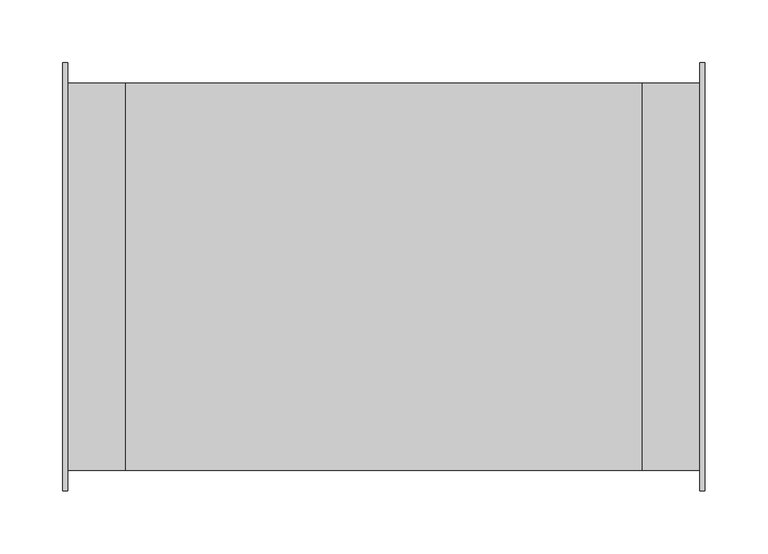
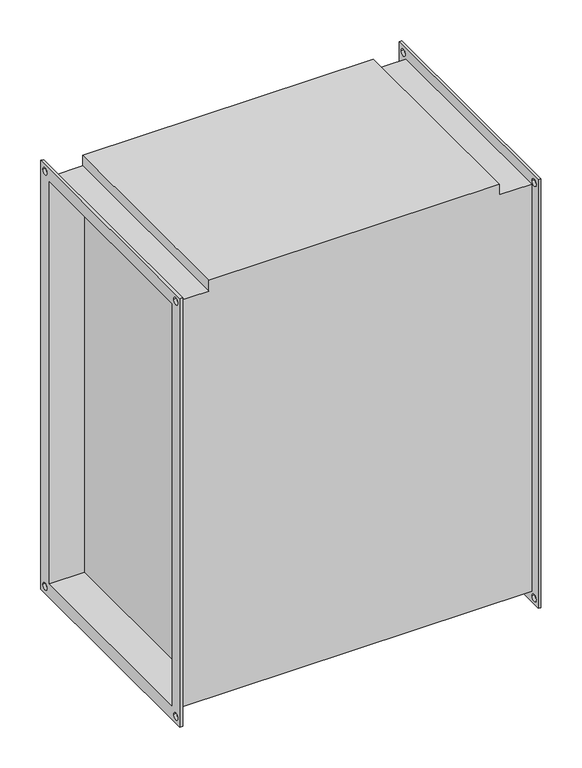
"""IFC4 building model written with IfcOpenShell, lengths in millimetres: proxy geometry, СВ_ВоздухонагревательЭлектрический_КанальныйПрямоугольный_200-1000_SPH-E : SPH-E-600x300/22,5."""

from ifc_helpers import new_model, si_unit, frame, origin, place, context, project, spatial, polyline, circle_curve, source, transform, mapped, element, save
from ifc_brep_helpers import plane_surface, revolved_surface, advanced_brep


def mechanical_equipment_0f29fb4d(model_context):
    return source(origin(), model_context, "Body", "AdvancedBrep", [
        advanced_brep(
        [(-205.0, -154.0, 304.0), (-251.0, -154.0, 304.0), (-251.0, -154.0, -304.0), (251.0, -154.0, -304.0), (251.0, -154.0, 304.0), (205.0, -154.0, 304.0), (205.0, -154.0, 320.0), (-205.0, -154.0, 320.0), (-251.0, 154.0, -304.0), (251.0, 154.0, -304.0), (-251.0, 154.0, 304.0), (-205.0, 154.0, 304.0), (-205.0, 154.0, 320.0), (205.0, 154.0, 320.0), (205.0, 154.0, 304.0), (251.0, 154.0, 304.0), (205.0, 150.0, -300.0), (205.0, 150.0, 300.0), (205.0, -150.0, 300.0), (205.0, -150.0, -300.0), (-205.0, -150.0, 300.0), (-205.0, 150.0, 300.0), (-205.0, 150.0, -300.0), (-205.0, -150.0, -300.0), (-255.0, -170.0, 320.0), (-255.0, 170.0, 320.0), (-255.0, 170.0, -320.0), (-255.0, -170.0, -320.0), (-255.0, -150.0, 300.0), (-255.0, -150.0, -300.0), (-255.0, 150.0, -300.0), (-255.0, 150.0, 300.0), (-255.0, 155.0, 310.0), (-255.0, 165.0, 310.0), (-255.0, -165.0, 310.0), (-255.0, -155.0, 310.0), (-255.0, -165.0, -310.0), (-255.0, -155.0, -310.0), (-255.0, 155.0, -310.0), (-255.0, 165.0, -310.0), (-251.0, -170.0, 320.0), (-251.0, -170.0, -320.0), (-251.0, 170.0, -320.0), (-251.0, 170.0, 320.0), (-251.0, 165.0, 310.0), (-251.0, 155.0, 310.0), (-251.0, -155.0, 310.0), (-251.0, -165.0, 310.0), (-251.0, -155.0, -310.0), (-251.0, -165.0, -310.0), (-251.0, 165.0, -310.0), (-251.0, 155.0, -310.0), (251.0, 170.0, 320.0), (251.0, 170.0, -320.0), (251.0, -170.0, -320.0), (251.0, -170.0, 320.0), (251.0, 155.0, 310.0), (251.0, 165.0, 310.0), (251.0, -165.0, 310.0), (251.0, -155.0, 310.0), (251.0, -165.0, -310.0), (251.0, -155.0, -310.0), (251.0, 155.0, -310.0), (251.0, 165.0, -310.0), (255.0, 170.0, 320.0), (255.0, -170.0, 320.0), (255.0, -170.0, -320.0), (255.0, 170.0, -320.0), (255.0, 150.0, 300.0), (255.0, 150.0, -300.0), (255.0, -150.0, -300.0), (255.0, -150.0, 300.0), (255.0, 165.0, 310.0), (255.0, 155.0, 310.0), (255.0, -155.0, 310.0), (255.0, -165.0, 310.0), (255.0, -155.0, -310.0), (255.0, -165.0, -310.0), (255.0, 165.0, -310.0), (255.0, 155.0, -310.0)],
        [
            (0, 1),
            (1, 2),
            (2, 3),
            (3, 4),
            (4, 5),
            (5, 6),
            (6, 7),
            (7, 0),
            (2, 8),
            (8, 9),
            (9, 3),
            (10, 11),
            (11, 12),
            (12, 13),
            (13, 14),
            (14, 15),
            (15, 9),
            (8, 10),
            (0, 11),
            (10, 1),
            (13, 6),
            (5, 14),
            (16, 17),
            (17, 18),
            (18, 19),
            (19, 16),
            (7, 12),
            (20, 21),
            (21, 22),
            (22, 23),
            (23, 20),
            (4, 15),
            (24, 25),
            (25, 26),
            (26, 27),
            (27, 24),
            (28, 29),
            (29, 30),
            (30, 31),
            (31, 28),
            (32, 33, circle_curve(frame((-255.0, 160.0, 310.0), z_axis=(1.0, 0.0, 0.0), x_axis=(0.0, 1.0, 0.0)), 5.0)),
            (33, 32, circle_curve(frame((-255.0, 160.0, 310.0), z_axis=(1.0, 0.0, 0.0), x_axis=(0.0, 1.0, 0.0)), 5.0)),
            (34, 35, circle_curve(frame((-255.0, -160.0, 310.0), z_axis=(1.0, 0.0, 0.0), x_axis=(0.0, 1.0, 0.0)), 5.0)),
            (35, 34, circle_curve(frame((-255.0, -160.0, 310.0), z_axis=(1.0, 0.0, 0.0), x_axis=(0.0, 1.0, 0.0)), 5.0)),
            (36, 37, circle_curve(frame((-255.0, -160.0, -310.0), z_axis=(1.0, 0.0, 0.0), x_axis=(0.0, 1.0, 0.0)), 5.0)),
            (37, 36, circle_curve(frame((-255.0, -160.0, -310.0), z_axis=(1.0, 0.0, 0.0), x_axis=(0.0, 1.0, 0.0)), 5.0)),
            (38, 39, circle_curve(frame((-255.0, 160.0, -310.0), z_axis=(1.0, 0.0, 0.0), x_axis=(0.0, 1.0, 0.0)), 5.0)),
            (39, 38, circle_curve(frame((-255.0, 160.0, -310.0), z_axis=(1.0, 0.0, 0.0), x_axis=(0.0, 1.0, 0.0)), 5.0)),
            (40, 41),
            (41, 42),
            (42, 43),
            (43, 40),
            (44, 45, circle_curve(frame((-251.0, 160.0, 310.0), z_axis=(-1.0, 0.0, 0.0), x_axis=(0.0, 1.0, 0.0)), 5.0)),
            (45, 44, circle_curve(frame((-251.0, 160.0, 310.0), z_axis=(-1.0, 0.0, 0.0), x_axis=(0.0, 1.0, 0.0)), 5.0)),
            (46, 47, circle_curve(frame((-251.0, -160.0, 310.0), z_axis=(-1.0, 0.0, 0.0), x_axis=(0.0, 1.0, 0.0)), 5.0)),
            (47, 46, circle_curve(frame((-251.0, -160.0, 310.0), z_axis=(-1.0, 0.0, 0.0), x_axis=(0.0, 1.0, 0.0)), 5.0)),
            (48, 49, circle_curve(frame((-251.0, -160.0, -310.0), z_axis=(-1.0, 0.0, 0.0), x_axis=(0.0, 1.0, 0.0)), 5.0)),
            (49, 48, circle_curve(frame((-251.0, -160.0, -310.0), z_axis=(-1.0, 0.0, 0.0), x_axis=(0.0, 1.0, 0.0)), 5.0)),
            (50, 51, circle_curve(frame((-251.0, 160.0, -310.0), z_axis=(-1.0, 0.0, 0.0), x_axis=(0.0, 1.0, 0.0)), 5.0)),
            (51, 50, circle_curve(frame((-251.0, 160.0, -310.0), z_axis=(-1.0, 0.0, 0.0), x_axis=(0.0, 1.0, 0.0)), 5.0)),
            (27, 41),
            (40, 24),
            (26, 42),
            (25, 43),
            (52, 53),
            (53, 54),
            (54, 55),
            (55, 52),
            (56, 57, circle_curve(frame((251.0, 160.0, 310.0), z_axis=(1.0, 0.0, 0.0), x_axis=(0.0, 1.0, 0.0)), 5.0)),
            (57, 56, circle_curve(frame((251.0, 160.0, 310.0), z_axis=(1.0, 0.0, 0.0), x_axis=(0.0, 1.0, 0.0)), 5.0)),
            (58, 59, circle_curve(frame((251.0, -160.0, 310.0), z_axis=(1.0, 0.0, 0.0), x_axis=(0.0, 1.0, 0.0)), 5.0)),
            (59, 58, circle_curve(frame((251.0, -160.0, 310.0), z_axis=(1.0, 0.0, 0.0), x_axis=(0.0, 1.0, 0.0)), 5.0)),
            (60, 61, circle_curve(frame((251.0, -160.0, -310.0), z_axis=(1.0, 0.0, 0.0), x_axis=(0.0, 1.0, 0.0)), 5.0)),
            (61, 60, circle_curve(frame((251.0, -160.0, -310.0), z_axis=(1.0, 0.0, 0.0), x_axis=(0.0, 1.0, 0.0)), 5.0)),
            (62, 63, circle_curve(frame((251.0, 160.0, -310.0), z_axis=(1.0, 0.0, 0.0), x_axis=(0.0, 1.0, 0.0)), 5.0)),
            (63, 62, circle_curve(frame((251.0, 160.0, -310.0), z_axis=(1.0, 0.0, 0.0), x_axis=(0.0, 1.0, 0.0)), 5.0)),
            (64, 65),
            (65, 66),
            (66, 67),
            (67, 64),
            (68, 69),
            (69, 70),
            (70, 71),
            (71, 68),
            (72, 73, circle_curve(frame((255.0, 160.0, 310.0), z_axis=(-1.0, 0.0, 0.0), x_axis=(0.0, 1.0, 0.0)), 5.0)),
            (73, 72, circle_curve(frame((255.0, 160.0, 310.0), z_axis=(-1.0, 0.0, 0.0), x_axis=(0.0, 1.0, 0.0)), 5.0)),
            (74, 75, circle_curve(frame((255.0, -160.0, 310.0), z_axis=(-1.0, 0.0, 0.0), x_axis=(0.0, 1.0, 0.0)), 5.0)),
            (75, 74, circle_curve(frame((255.0, -160.0, 310.0), z_axis=(-1.0, 0.0, 0.0), x_axis=(0.0, 1.0, 0.0)), 5.0)),
            (76, 77, circle_curve(frame((255.0, -160.0, -310.0), z_axis=(-1.0, 0.0, 0.0), x_axis=(0.0, 1.0, 0.0)), 5.0)),
            (77, 76, circle_curve(frame((255.0, -160.0, -310.0), z_axis=(-1.0, 0.0, 0.0), x_axis=(0.0, 1.0, 0.0)), 5.0)),
            (78, 79, circle_curve(frame((255.0, 160.0, -310.0), z_axis=(-1.0, 0.0, 0.0), x_axis=(0.0, 1.0, 0.0)), 5.0)),
            (79, 78, circle_curve(frame((255.0, 160.0, -310.0), z_axis=(-1.0, 0.0, 0.0), x_axis=(0.0, 1.0, 0.0)), 5.0)),
            (55, 65),
            (64, 52),
            (54, 66),
            (53, 67),
            (31, 21),
            (20, 28),
            (30, 22),
            (29, 23),
            (68, 17),
            (16, 69),
            (19, 70),
            (18, 71),
            (32, 45),
            (44, 33),
            (56, 73),
            (72, 57),
            (34, 47),
            (46, 35),
            (58, 75),
            (74, 59),
            (36, 49),
            (48, 37),
            (60, 77),
            (76, 61),
            (38, 51),
            (50, 39),
            (62, 79),
            (78, 63),
        ],
        [
            plane_surface(frame((-205.0, -154.0, 304.0), z_axis=(0.0, -1.0, 0.0), x_axis=(-1.0, 0.0, 0.0))),
            plane_surface(frame((-205.0, -154.0, -304.0), z_axis=(0.0, 0.0, -1.0), x_axis=(-1.0, 0.0, 0.0))),
            plane_surface(frame((-205.0, 154.0, -304.0), z_axis=(0.0, 1.0, 0.0), x_axis=(-1.0, 0.0, 0.0))),
            plane_surface(frame((-205.0, 154.0, 304.0), z_axis=(0.0, 0.0, 1.0), x_axis=(-1.0, 0.0, 0.0))),
            plane_surface(frame((205.0, -154.0, 320.0), z_axis=(1.0, 0.0, 0.0), x_axis=(0.0, 0.0, -1.0))),
            plane_surface(frame((-205.0, -154.0, 320.0), z_axis=(-1.0, 0.0, 0.0), x_axis=(0.0, 0.0, 1.0))),
            plane_surface(frame((205.0, 154.0, 320.0), z_axis=(0.0, 0.0, 1.0), x_axis=(-1.0, 0.0, 0.0))),
            plane_surface(frame((251.0, 154.0, 304.0), z_axis=(0.0, 0.0, 1.0), x_axis=(-1.0, 0.0, 0.0))),
            plane_surface(frame((-255.0, -170.0, 320.0), z_axis=(-1.0, 0.0, 0.0), x_axis=(0.0, 0.0, 1.0))),
            plane_surface(frame((-251.0, -170.0, 320.0), z_axis=(1.0, 0.0, 0.0), x_axis=(0.0, 0.0, -1.0))),
            plane_surface(frame((-251.0, -170.0, 320.0), z_axis=(0.0, -1.0, 0.0), x_axis=(-1.0, 0.0, 0.0))),
            plane_surface(frame((-251.0, -170.0, -320.0), z_axis=(0.0, 0.0, -1.0), x_axis=(-1.0, 0.0, 0.0))),
            plane_surface(frame((-251.0, 170.0, -320.0), z_axis=(0.0, 1.0, 0.0), x_axis=(-1.0, 0.0, 0.0))),
            plane_surface(frame((-251.0, 170.0, 320.0), z_axis=(0.0, 0.0, 1.0), x_axis=(-1.0, 0.0, 0.0))),
            plane_surface(frame((251.0, 150.0, -300.0), z_axis=(-1.0, 0.0, 0.0), x_axis=(0.0, 0.0, 1.0))),
            plane_surface(frame((255.0, 150.0, -300.0), z_axis=(1.0, 0.0, 0.0), x_axis=(0.0, 0.0, -1.0))),
            plane_surface(frame((255.0, 170.0, 320.0), z_axis=(0.0, 0.0, 1.0), x_axis=(-1.0, 0.0, 0.0))),
            plane_surface(frame((255.0, -170.0, 320.0), z_axis=(0.0, -1.0, 0.0), x_axis=(-1.0, 0.0, 0.0))),
            plane_surface(frame((255.0, -170.0, -320.0), z_axis=(0.0, 0.0, -1.0), x_axis=(-1.0, 0.0, 0.0))),
            plane_surface(frame((255.0, 170.0, -320.0), z_axis=(0.0, 1.0, 0.0), x_axis=(-1.0, 0.0, 0.0))),
            plane_surface(frame((-251.0, -150.0, 300.0), z_axis=(0.0, 0.0, -1.0), x_axis=(-1.0, 0.0, 0.0))),
            plane_surface(frame((-251.0, 150.0, 300.0), z_axis=(0.0, -1.0, 0.0), x_axis=(-1.0, 0.0, 0.0))),
            plane_surface(frame((-251.0, 150.0, -300.0), z_axis=(0.0, 0.0, 1.0), x_axis=(-1.0, 0.0, 0.0))),
            plane_surface(frame((-251.0, -150.0, -300.0), z_axis=(0.0, 1.0, 0.0), x_axis=(-1.0, 0.0, 0.0))),
            plane_surface(frame((255.0, 150.0, 300.0), z_axis=(0.0, -1.0, 0.0), x_axis=(-1.0, 0.0, 0.0))),
            plane_surface(frame((255.0, 150.0, -300.0), z_axis=(0.0, 0.0, 1.0), x_axis=(-1.0, 0.0, 0.0))),
            plane_surface(frame((255.0, -150.0, -300.0), z_axis=(0.0, 1.0, 0.0), x_axis=(-1.0, 0.0, 0.0))),
            plane_surface(frame((255.0, -150.0, 300.0), z_axis=(0.0, 0.0, -1.0), x_axis=(-1.0, 0.0, 0.0))),
            revolved_surface(polyline([(-251.0, 165.0, 310.0), (-255.0, 165.0, 310.0)]), (-255.0, 160.0, 310.0), (1.0, 0.0, 0.0)),
            revolved_surface(polyline([(255.0, 165.0, 310.0), (251.0, 165.0, 310.0)]), (-255.0, 160.0, 310.0), (1.0, 0.0, 0.0)),
            revolved_surface(polyline([(-251.0, -155.0, 310.0), (-255.0, -155.0, 310.0)]), (0.0, -160.0, 310.0), (1.0, 0.0, 0.0)),
            revolved_surface(polyline([(255.0, -155.0, 310.0), (251.0, -155.0, 310.0)]), (0.0, -160.0, 310.0), (1.0, 0.0, 0.0)),
            revolved_surface(polyline([(-251.0, -155.0, -310.0), (-255.0, -155.0, -310.0)]), (0.0, -160.0, -310.0), (1.0, 0.0, 0.0)),
            revolved_surface(polyline([(255.0, -155.0, -310.0), (251.0, -155.0, -310.0)]), (0.0, -160.0, -310.0), (1.0, 0.0, 0.0)),
            revolved_surface(polyline([(-251.0, 165.0, -310.0), (-255.0, 165.0, -310.0)]), (0.0, 160.0, -310.0), (1.0, 0.0, 0.0)),
            revolved_surface(polyline([(255.0, 165.0, -310.0), (251.0, 165.0, -310.0)]), (0.0, 160.0, -310.0), (1.0, 0.0, 0.0)),
        ],
        [
            (0, [[1, 2, 3, 4, 5, 6, 7, 8]]),
            (1, [[-3, 9, 10, 11]]),
            (2, [[12, 13, 14, 15, 16, 17, -10, 18]]),
            (3, [[-1, 19, -12, 20]]),
            (4, [[21, -6, 22, -15]]),
            (4, [[23, 24, 25, 26]]),
            (5, [[27, -13, -19, -8]]),
            (5, [[28, 29, 30, 31]]),
            (6, [[-21, -14, -27, -7]]),
            (7, [[-5, 32, -16, -22]]),
            (8, [[33, 34, 35, 36], [37, 38, 39, 40], [41, 42], [43, 44], [45, 46], [47, 48]]),
            (9, [[49, 50, 51, 52], [-2, -20, -18, -9], [53, 54], [55, 56], [57, 58], [59, 60]]),
            (10, [[-36, 61, -49, 62]]),
            (11, [[-35, 63, -50, -61]]),
            (12, [[-34, 64, -51, -63]]),
            (13, [[-33, -62, -52, -64]]),
            (14, [[65, 66, 67, 68], [-4, -11, -17, -32], [69, 70], [71, 72], [73, 74], [75, 76]]),
            (15, [[77, 78, 79, 80], [81, 82, 83, 84], [85, 86], [87, 88], [89, 90], [91, 92]]),
            (16, [[-68, 93, -77, 94]]),
            (17, [[-67, 95, -78, -93]]),
            (18, [[-66, 96, -79, -95]]),
            (19, [[-65, -94, -80, -96]]),
            (20, [[-40, 97, -28, 98]]),
            (21, [[-39, 99, -29, -97]]),
            (22, [[-38, 100, -30, -99]]),
            (23, [[-37, -98, -31, -100]]),
            (24, [[-81, 101, -23, 102]]),
            (25, [[-82, -102, -26, 103]]),
            (26, [[-83, -103, -25, 104]]),
            (27, [[-101, -84, -104, -24]]),
            (28, [[105, -53, 106, -41]]),
            (29, [[107, -85, 108, -69]]),
            (28, [[-105, -42, -106, -54]]),
            (29, [[-107, -70, -108, -86]]),
            (30, [[109, -55, 110, -43]]),
            (31, [[111, -87, 112, -71]]),
            (30, [[-109, -44, -110, -56]]),
            (31, [[-111, -72, -112, -88]]),
            (32, [[113, -57, 114, -45]]),
            (33, [[115, -89, 116, -73]]),
            (32, [[-113, -46, -114, -58]]),
            (33, [[-115, -74, -116, -90]]),
            (34, [[117, -59, 118, -47]]),
            (35, [[119, -91, 120, -75]]),
            (34, [[-117, -48, -118, -60]]),
            (35, [[-119, -76, -120, -92]]),
        ],
    ),
    ])


if __name__ == "__main__":
    model = new_model("IFC4")
    model_context = context("Model", 3, world=origin())
    ifc_project = project(units=[si_unit("LENGTHUNIT", "METRE", prefix="MILLI")], contexts=[model_context])
    site = spatial("IfcSite", under=ifc_project)
    building = spatial("IfcBuilding", under=site)
    placement = place(None, origin())
    mechanical_equipment_shape = mechanical_equipment_0f29fb4d(model_context)
    element("IfcBuildingElementProxy", 1, Name="СВ_ВоздухонагревательЭлектрический_КанальныйПрямоугольный_200-1000_SPH-E : SPH-E-600x300/22,5", ObjectType="СВ_ВоздухонагревательЭлектрический_КанальныйПрямоугольный_200-1000_SPH-E : SPH-E-600x300/22,5", at=placement, inside=building, context=model_context, shape_type="MappedRepresentation", body=[
        mapped(mechanical_equipment_shape, transform((0.0, 0.0, 0.0), x_axis=(1.0, 0.0, 0.0), y_axis=(0.0, 1.0, 0.0), z_axis=(0.0, 0.0, 1.0))),
    ])
    save(model, "model.ifc")
